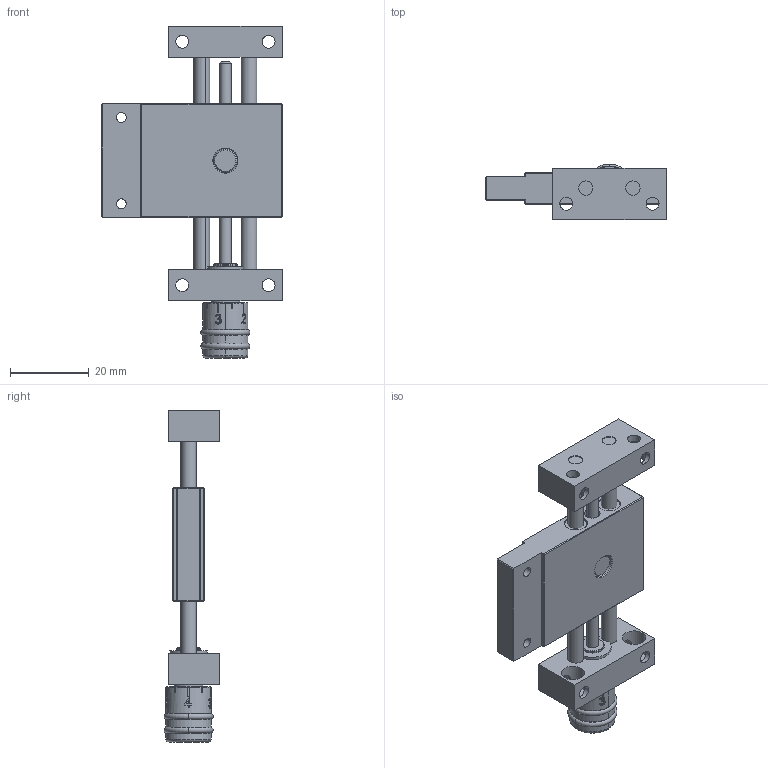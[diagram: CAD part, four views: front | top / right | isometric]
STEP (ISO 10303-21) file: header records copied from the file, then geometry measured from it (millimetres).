
FILE_DESCRIPTION (( 'STEP AP203' ), '1' );
FILE_NAME ('KT2304-KR-SK-Kreuztisch.STEP', '2016-01-15T16:53:17', ( '' ), ( '' ), 'SwSTEP 2.0', 'SolidWorks 2014', '' );
FILE_SCHEMA (( 'CONFIG_CONTROL_DESIGN' ));
Length unit declared in the file: millimetre
Products named in the file (3): PT2304-000-01-Festteil; KT04-000-02-K-Schlitten-komplett; KT2304-KR-SK-Kreuztisch
Assembly tree (2 placements, depth 2):
  KT2304-KR-SK-Kreuztisch
    PT2304-000-01-Festteil
    KT04-000-02-K-Schlitten-komplett
Bounding box: 46 x 14.25 x 84.54 mm (x, y, z)
Volume: 16237.1 mm3; surface area: 12025.9 mm2
Topology: 2 solids, 4 shells, 444 faces, 1084 edges, 688 vertices
Faces by surface type: plane 160, cylinder 151, cone 72, bspline 41, torus 18, sphere 2
Entity records: 19018 total; most frequent: CARTESIAN_POINT 8287, DIRECTION 2172, ORIENTED_EDGE 2164, EDGE_CURVE 1082, AXIS2_PLACEMENT_3D 868, VERTEX_POINT 688, EDGE_LOOP 526, CIRCLE 460
